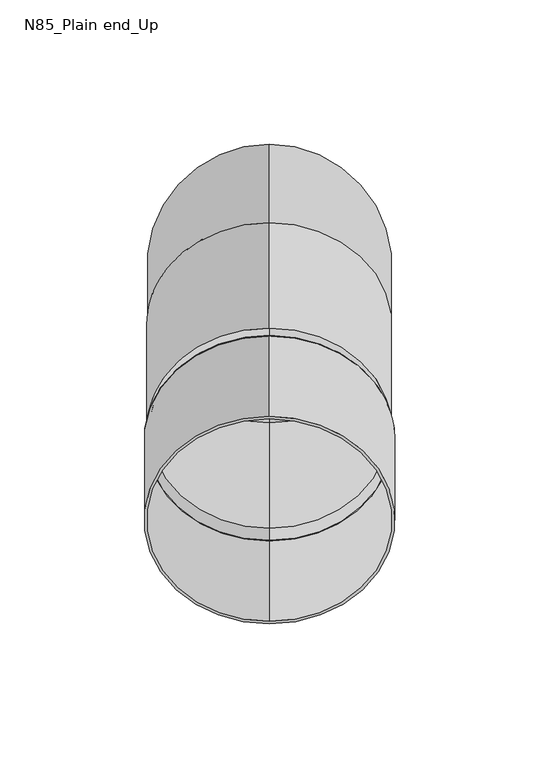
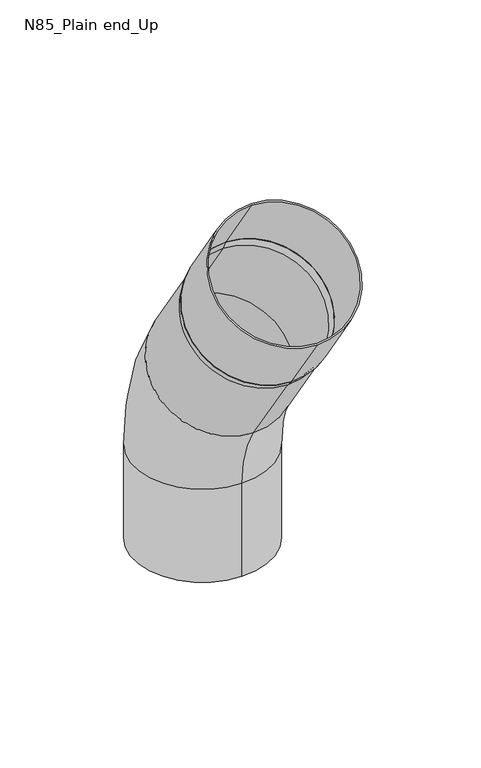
"""IFC4 building model written with IfcOpenShell, lengths in millimetres: proxy geometry, GROVIK_Downpipe_Adjustable offset : N85_Plain end_Up."""

from ifc_helpers import new_model, si_unit, point, frame, origin, origin_2d, place, context, project, spatial, polyline, circle_curve, ellipse_curve, trimmed, segment, composite_curve, outline, extrude, source, transform, mapped, element, save
from ifc_brep_helpers import plane_surface, cylinder_surface, revolved_surface, advanced_brep


def n85_plain_end_up_76a07d54(model_context):
    return source(origin(), model_context, "Body", "SolidModel", [
        advanced_brep(
        [(0.0, -23.893056, 147.8606599), (0.0, -95.8234514, 98.9217367), (0.0, -94.9966653, 99.484253), (0.0, -24.7198421, 147.2981436), (0.0, -21.344744, 142.3374266), (0.0, -91.6215671, 94.5235361), (0.0, -22.1715301, 141.7749103), (0.0, -90.794781, 95.0860525)],
        [
            (0, 1, circle_curve(frame((0.0, -59.8582537, 123.3911983), z_axis=(0.0, -0.562516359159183, 0.8267861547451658), x_axis=(0.0, 0.8267861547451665, 0.5625163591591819)), 43.5)),
            (1, 0, circle_curve(frame((0.0, -59.8582537, 123.3911983), z_axis=(0.0, -0.562516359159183, 0.8267861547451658), x_axis=(0.0, -0.8267861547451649, -0.5625163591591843)), 43.5)),
            (2, 3, circle_curve(frame((0.0, -59.8582537, 123.3911983), z_axis=(0.0, 0.562516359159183, -0.8267861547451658), x_axis=(0.0, 0.8267861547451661, 0.5625163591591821)), 42.5)),
            (3, 2, circle_curve(frame((0.0, -59.8582537, 123.3911983), z_axis=(0.0, 0.562516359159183, -0.8267861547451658), x_axis=(0.0, -0.826786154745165, -0.5625163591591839)), 42.5)),
            (4, 5, circle_curve(frame((0.0, -56.4831555, 118.4304814), z_axis=(0.0, 0.562516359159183, -0.8267861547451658), x_axis=(0.0, -0.8267861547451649, -0.5625163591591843)), 42.5)),
            (5, 4, circle_curve(frame((0.0, -56.4831555, 118.4304814), z_axis=(0.0, 0.562516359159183, -0.8267861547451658), x_axis=(0.0, 0.8267861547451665, 0.5625163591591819)), 42.5)),
            (6, 7, circle_curve(frame((0.0, -56.4831555, 118.4304814), z_axis=(0.0, -0.562516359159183, 0.8267861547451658), x_axis=(0.0, 0.8267861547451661, 0.5625163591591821)), 41.5)),
            (7, 6, circle_curve(frame((0.0, -56.4831555, 118.4304814), z_axis=(0.0, -0.562516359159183, 0.8267861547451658), x_axis=(0.0, -0.826786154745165, -0.5625163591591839)), 41.5)),
            (0, 4),
            (5, 1),
            (6, 3),
            (2, 7),
        ],
        [
            plane_surface(frame((0.0, -59.8582537, 123.3911983), z_axis=(0.0, -0.5625163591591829, 0.8267861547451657), x_axis=(-1.0, 0.0, 0.0))),
            plane_surface(frame((0.0, -56.4831555, 118.4304814), z_axis=(0.0, 0.562516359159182, -0.8267861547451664), x_axis=(-1.0, 0.0, 0.0))),
            revolved_surface(polyline([(0.0, -91.62156707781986, 94.52353611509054), (0.0, -95.82345139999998, 98.9217367)]), (0.0, 86.958516, -92.3999881), (0.0, -0.562516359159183, 0.8267861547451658)),
            revolved_surface(polyline([(0.0, -21.34474399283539, 142.33742659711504), (0.0, -23.893056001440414, 147.86065990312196)]), (0.0, 86.958516, -92.3999881), (0.0, -0.562516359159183, 0.8267861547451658)),
            revolved_surface(polyline([(0.0, -24.719842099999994, 147.2981436), (0.0, -22.17153009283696, 141.77491029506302)]), (0.0, 83.5834179, -87.4392712), (0.0, -0.562516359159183, 0.8267861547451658)),
        ],
        [
            (0, [[1, 2], [3, 4]]),
            (1, [[5, 6], [7, 8]]),
            (2, [[-1, 9, -6, 10]]),
            (3, [[-2, -10, -5, -9]]),
            (4, [[11, -3, 12, -7]]),
            (4, [[-11, -8, -12, -4]]),
        ],
    ),
        extrude(outline(composite_curve([segment(trimmed(circle_curve(origin_2d(), 43.5), [point((0.0, 43.5))], [point((0.0, -43.5))], False, "CARTESIAN"), True, "CONTINUOUS"), segment(trimmed(circle_curve(origin_2d(), 43.5), [point((0.0, -43.5))], [point((0.0, 43.5))], False, "CARTESIAN"), True, "CONTINUOUS")], self_intersect=False), holes=[composite_curve([segment(trimmed(circle_curve(origin_2d(), 42.5), [point((0.0, 42.5))], [point((0.0, -42.5))], True, "CARTESIAN"), True, "CONTINUOUS"), segment(trimmed(circle_curve(origin_2d(), 42.5), [point((0.0, -42.5))], [point((0.0, 42.5))], True, "CARTESIAN"), True, "CONTINUOUS")], self_intersect=False)]), frame((0.0, -59.8582537, 123.3911983), z_axis=(0.0, -0.5625163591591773, 0.8267861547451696), x_axis=(1.0, 0.0, 0.0)), (0.0, 0.0, 1.0), 50.0),
        advanced_brep(
        [(0.0, 42.5, -61.0), (0.0, -42.5, -61.0), (0.0, 41.5, -61.0), (0.0, -41.5, -61.0), (0.0, 42.5, 0.0), (0.0, -42.5, 0.0), (0.0, 41.5, 0.0), (0.0, -41.5, 0.0), (0.0, -55.0580038, 40.782436), (0.0, 15.2188194, 88.5963266), (0.0, -54.2312176, 41.3449524), (0.0, 14.3920332, 88.0338102), (0.0, -21.344744, 142.3374266), (0.0, -91.6215671, 94.5235361), (0.0, -22.1715301, 141.7749103), (0.0, -90.794781, 95.0860525)],
        [
            (0, 1, circle_curve(frame((0.0, 0.0, -61.0), z_axis=(0.0, 0.0, -1.0), x_axis=(0.0, -1.0, 0.0)), 42.5)),
            (1, 0, circle_curve(frame((0.0, 0.0, -61.0), z_axis=(0.0, 0.0, -1.0), x_axis=(0.0, -1.0, 0.0)), 42.5)),
            (2, 3, circle_curve(frame((0.0, 0.0, -61.0), z_axis=(0.0, 0.0, 1.0), x_axis=(0.0, -1.0, 0.0)), 41.5)),
            (3, 2, circle_curve(frame((0.0, 0.0, -61.0), z_axis=(0.0, 0.0, 1.0), x_axis=(0.0, -1.0, 0.0)), 41.5)),
            (0, 4),
            (4, 5, circle_curve(frame((0.0, 0.0, 0.0), z_axis=(0.0, 0.0, -1.0), x_axis=(0.0, -1.0, 0.0)), 42.5)),
            (5, 1),
            (5, 4, circle_curve(frame((0.0, 0.0, 0.0), z_axis=(0.0, 0.0, -1.0), x_axis=(0.0, -1.0, 0.0)), 42.5)),
            (2, 6),
            (6, 7, circle_curve(frame((0.0, 0.0, 0.0), z_axis=(0.0, 0.0, 1.0), x_axis=(0.0, -1.0, 0.0)), 41.5)),
            (7, 3),
            (7, 6, circle_curve(frame((0.0, 0.0, 0.0), z_axis=(0.0, 0.0, 1.0), x_axis=(0.0, -1.0, 0.0)), 41.5)),
            (8, 5, circle_curve(frame((0.0, -115.0, 0.0), z_axis=(-1.0, 0.0, 0.0), x_axis=(0.0, 1.0, 0.0)), 72.5)),
            (4, 9, circle_curve(frame((0.0, -115.0, 0.0), z_axis=(1.0, 0.0, 0.0), x_axis=(0.0, 1.0, 0.0)), 157.5)),
            (9, 8, circle_curve(frame((0.0, -19.9195922, 64.6893813), z_axis=(0.0, 0.562516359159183, -0.8267861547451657), x_axis=(0.0, -0.8267861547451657, -0.562516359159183)), 42.5)),
            (8, 9, circle_curve(frame((0.0, -19.9195922, 64.6893813), z_axis=(0.0, 0.5625163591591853, -0.826786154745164), x_axis=(0.0, -0.826786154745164, -0.5625163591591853)), 42.5)),
            (10, 7, circle_curve(frame((0.0, -115.0, 0.0), z_axis=(-1.0, 0.0, 0.0), x_axis=(0.0, 1.0, 0.0)), 73.5)),
            (6, 11, circle_curve(frame((0.0, -115.0, 0.0), z_axis=(1.0, 0.0, 0.0), x_axis=(0.0, 1.0, 0.0)), 156.5)),
            (11, 10, circle_curve(frame((0.0, -19.9195922, 64.6893813), z_axis=(0.0, -0.562516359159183, 0.8267861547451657), x_axis=(0.0, -0.8267861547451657, -0.562516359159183)), 41.5)),
            (10, 11, circle_curve(frame((0.0, -19.9195922, 64.6893813), z_axis=(0.0, -0.5625163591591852, 0.8267861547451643), x_axis=(0.0, -0.8267861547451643, -0.5625163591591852)), 41.5)),
            (12, 13, circle_curve(frame((0.0, -56.4831555, 118.4304814), z_axis=(0.0, -0.5625163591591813, 0.8267861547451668), x_axis=(0.0, -0.8267861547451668, -0.5625163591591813)), 42.5)),
            (13, 12, circle_curve(frame((0.0, -56.4831555, 118.4304814), z_axis=(0.0, -0.5625163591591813, 0.8267861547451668), x_axis=(0.0, -0.8267861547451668, -0.5625163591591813)), 42.5)),
            (14, 15, circle_curve(frame((0.0, -56.4831555, 118.4304814), z_axis=(0.0, 0.5625163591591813, -0.8267861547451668), x_axis=(0.0, -0.8267861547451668, -0.5625163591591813)), 41.5)),
            (15, 14, circle_curve(frame((0.0, -56.4831555, 118.4304814), z_axis=(0.0, 0.5625163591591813, -0.8267861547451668), x_axis=(0.0, -0.8267861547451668, -0.5625163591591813)), 41.5)),
            (9, 12),
            (13, 8),
            (11, 14),
            (15, 10),
        ],
        [
            plane_surface(frame((0.0, 0.0, -61.0), z_axis=(0.0, 0.0, -1.0), x_axis=(1.0, 0.0, 0.0))),
            cylinder_surface(frame((0.0, 0.0, -61.0), z_axis=(0.0, 0.0, -1.0), x_axis=(0.0, -1.0, 0.0)), 42.5),
            revolved_surface(polyline([(0.0, -41.5, 0.0), (0.0, -41.5, -61.0)]), (0.0, 0.0, -61.0), (0.0, 0.0, 1.0)),
            revolved_surface(trimmed(ellipse_curve(frame((0.0, 0.0, 0.0), z_axis=(0.0, 0.0, -1.0), x_axis=(0.0, -1.0, 0.0)), 42.5, 42.5), [point((0.0, 42.5, 0.0))], [point((0.0, -42.5, 0.0))], True, "CARTESIAN"), (0.0, -115.0, 0.0), (1.0, 0.0, 0.0)),
            revolved_surface(trimmed(ellipse_curve(frame((0.0, 0.0, 0.0), z_axis=(0.0, 0.0, -1.0), x_axis=(0.0, -1.0, 0.0)), 42.5, 42.5), [point((0.0, -42.5, 0.0))], [point((0.0, 42.5, 0.0))], True, "CARTESIAN"), (0.0, -115.0, 0.0), (1.0, 0.0, 0.0)),
            revolved_surface(trimmed(ellipse_curve(frame((0.0, 0.0, 0.0), z_axis=(0.0, 0.0, 1.0), x_axis=(0.0, -1.0, 0.0)), 41.5, 41.5), [point((0.0, 41.5, 0.0))], [point((0.0, -41.5, 0.0))], True, "CARTESIAN"), (0.0, -115.0, 0.0), (1.0, 0.0, 0.0)),
            revolved_surface(trimmed(ellipse_curve(frame((0.0, 0.0, 0.0), z_axis=(0.0, 0.0, 1.0), x_axis=(0.0, -1.0, 0.0)), 41.5, 41.5), [point((0.0, -41.5, 0.0))], [point((0.0, 41.5, 0.0))], True, "CARTESIAN"), (0.0, -115.0, 0.0), (1.0, 0.0, 0.0)),
            plane_surface(frame((0.0, -56.4831555, 118.4304814), z_axis=(0.0, -0.5625163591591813, 0.8267861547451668), x_axis=(1.0, 0.0, 0.0))),
            cylinder_surface(frame((0.0, -19.9195922, 64.6893813), z_axis=(0.0, 0.5625163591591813, -0.8267861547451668), x_axis=(0.0, -0.8267861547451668, -0.5625163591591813)), 42.5),
            revolved_surface(polyline([(0.0, -90.79478099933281, 95.08605250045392), (0.0, -54.231217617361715, 41.34495238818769)]), (0.0, -19.9195922, 64.6893813), (0.0, -0.5625163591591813, 0.8267861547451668)),
        ],
        [
            (0, [[1, 2], [3, 4]]),
            (1, [[-1, 5, 6, 7]]),
            (1, [[-2, -7, 8, -5]]),
            (2, [[-3, 9, 10, 11]]),
            (2, [[-4, -11, 12, -9]]),
            (3, [[13, -6, 14, 15]]),
            (4, [[-14, -8, -13, 16]]),
            (5, [[17, -10, 18, 19]]),
            (6, [[-18, -12, -17, 20]]),
            (7, [[21, 22], [23, 24]]),
            (8, [[-15, 25, -22, 26]]),
            (8, [[-16, -26, -21, -25]]),
            (9, [[-19, 27, -24, 28]]),
            (9, [[-20, -28, -23, -27]]),
        ],
    ),
    ])


if __name__ == "__main__":
    model = new_model("IFC4")
    model_context = context("Model", 3, world=origin())
    ifc_project = project(units=[si_unit("LENGTHUNIT", "METRE", prefix="MILLI")], contexts=[model_context])
    site = spatial("IfcSite", under=ifc_project)
    building = spatial("IfcBuilding", under=site)
    placement = place(None, origin())
    n85_plain_end_up_shape = n85_plain_end_up_76a07d54(model_context)
    element("IfcBuildingElementProxy", 1, Name="GROVIK_Downpipe_Adjustable offset : N85_Plain end_Up", ObjectType="GROVIK_Downpipe_Adjustable offset : N85_Plain end_Up", at=placement, inside=building, context=model_context, shape_type="MappedRepresentation", body=[
        mapped(n85_plain_end_up_shape, transform((0.0, 0.0, 0.0), x_axis=(1.0, 0.0, 0.0), y_axis=(0.0, 1.0, 0.0), z_axis=(0.0, 0.0, 1.0))),
    ])
    save(model, "model.ifc")
